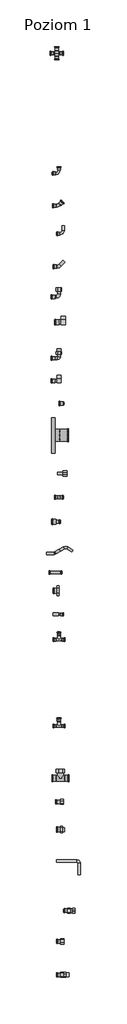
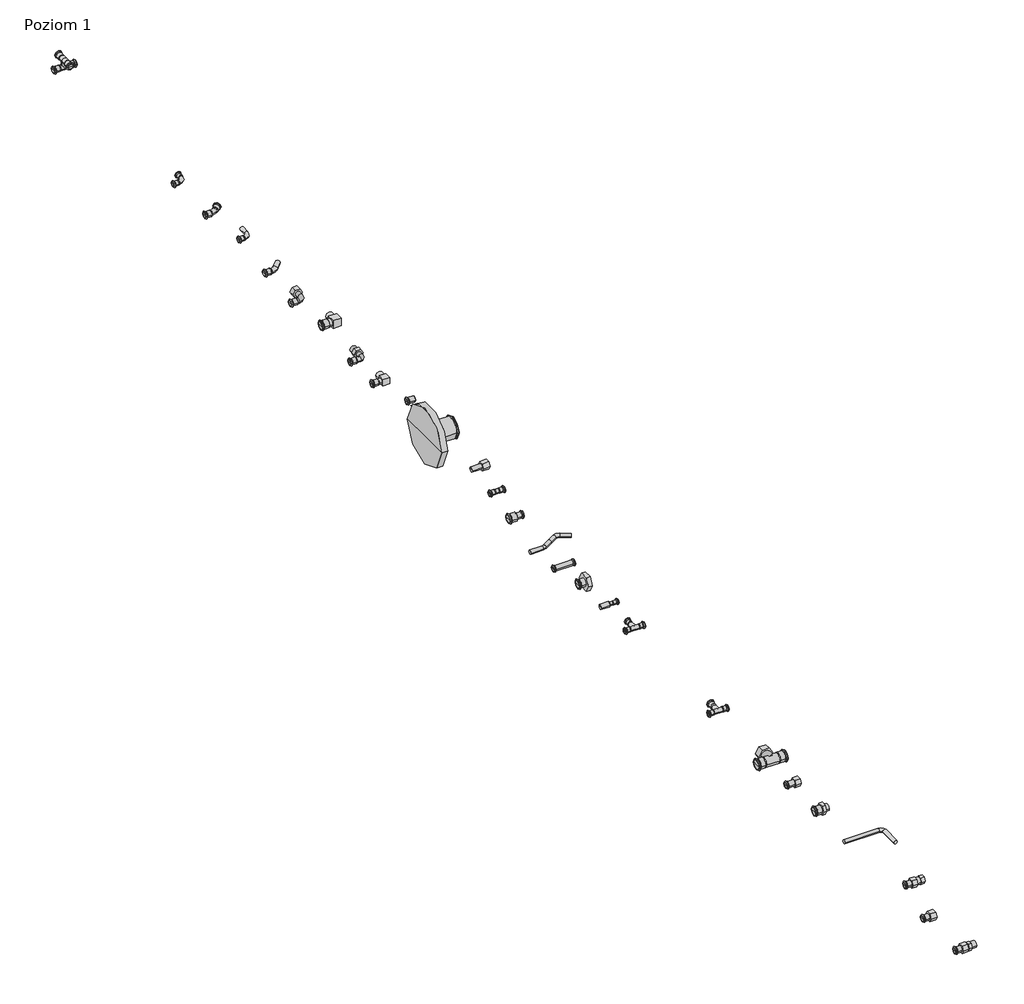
# One storey, incomplete: 27 pipe fittings.
"""IFC4 building model written with IfcOpenShell, lengths in millimetres."""

from ifc_helpers import new_model, si_unit, origin, place, context, project, spatial, transform, mapped, element, save
from components import pipe_fitting_8462d430, pipe_fitting_08f12846, pipe_fitting_08ccdee3, pipe_fitting_2555e7f1, pipe_fitting_e4f30973, pipe_fitting_8f5b5a92, pipe_fitting_eaec430f, pipe_fitting_f7e382dc, pipe_fitting_72cbb903, pipe_fitting_0f95d3b4, pipe_fitting_27f88213, pipe_fitting_b4462cad, pipe_fitting_2a5535a6, pipe_fitting_5a79280a, pipe_fitting_a91a79c0, pipe_fitting_d84e530c, pipe_fitting_259ccd33, pipe_fitting_d79643fc, pipe_fitting_2788c535, pipe_fitting_8b53cf8f, pipe_fitting_f1a50fe9, pipe_fitting_5368a910, pipe_fitting_0c1b11cb, pipe_fitting_7c4b0f0e, pipe_fitting_583e1adf, pipe_fitting_6daf88bd, pipe_fitting_339e2c9f

model = new_model("IFC4")

# Units and contexts
model_context = context("Model", 3, world=origin())
ifc_project = project(units=[si_unit("LENGTHUNIT", "METRE", prefix="MILLI")], contexts=[model_context])

# Site, building, storey
site = spatial("IfcSite", under=ifc_project)
building = spatial("IfcBuilding", under=site)
storey = spatial("IfcBuildingStorey", under=building, Name="Poziom 1", Elevation=0.0)

# Pipe fittings
placement = place(None, origin())
pipe_fitting_shape = pipe_fitting_8462d430(model_context)
element("IfcPipeFitting", 1, ObjectType="KAN-therm Steel złączka z GZ : KAN-therm Steel złączka z GZ", at=placement, inside=storey, context=model_context, shape_type="MappedRepresentation", body=[
    mapped(pipe_fitting_shape, transform((-12259.5036533, 14332.66029, 0.0), x_axis=(1.0, 0.0, 0.0), y_axis=(0.0, 1.0, 0.0), z_axis=(0.0, 0.0, 1.0))),
])
pipe_fitting_2_shape = pipe_fitting_08f12846(model_context)
element("IfcPipeFitting", 2, ObjectType="KAN-therm Steel czwórnik 90 przelotowy : KAN-therm Steel czwórnik 90 przelotowy", at=placement, inside=storey, context=model_context, shape_type="MappedRepresentation", body=[
    mapped(pipe_fitting_2_shape, transform((-12278.5373393, 18374.4410716, 0.0), x_axis=(1.0, 0.0, 0.0), y_axis=(0.0, 1.0, 0.0), z_axis=(0.0, 0.0, 1.0))),
])
pipe_fitting_3_shape = pipe_fitting_08ccdee3(model_context)
element("IfcPipeFitting", 3, ObjectType="KAN-therm Steel kolano 45 : KAN-therm Steel kolano 45", at=placement, inside=storey, context=model_context, shape_type="MappedRepresentation", body=[
    mapped(pipe_fitting_3_shape, transform((-12270.1211968, 17580.5182914, 0.0), x_axis=(1.0, 0.0, 0.0), y_axis=(0.0, 1.0, 0.0), z_axis=(0.0, 0.0, 1.0))),
])
pipe_fitting_4_shape = pipe_fitting_2555e7f1(model_context)
element("IfcPipeFitting", 4, ObjectType="KAN-therm Steel kolano nyplowe 45 : KAN-therm Steel kolano nyplowe 45", at=placement, inside=storey, context=model_context, shape_type="MappedRepresentation", body=[
    mapped(pipe_fitting_4_shape, transform((-12267.3158159, 17263.5102555, 0.0), x_axis=(1.0, 0.0, 0.0), y_axis=(0.0, 1.0, 0.0), z_axis=(0.0, 0.0, 1.0))),
])
pipe_fitting_5_shape = pipe_fitting_e4f30973(model_context)
element("IfcPipeFitting", 5, ObjectType="KAN-therm Steel kolano nyplowe : KAN-therm Steel kolano nyplowe", at=placement, inside=storey, context=model_context, shape_type="MappedRepresentation", body=[
    mapped(pipe_fitting_5_shape, transform((-12244.8727691, 17434.6384873, 0.0), x_axis=(1.0, 0.0, 0.0), y_axis=(0.0, 1.0, 0.0), z_axis=(0.0, 0.0, 1.0))),
])
pipe_fitting_6_shape = pipe_fitting_8f5b5a92(model_context)
element("IfcPipeFitting", 6, ObjectType="KAN-therm Steel kolano z GW krótkie : KAN-therm Steel kolano z GW krótkie", at=placement, inside=storey, context=model_context, shape_type="MappedRepresentation", body=[
    mapped(pipe_fitting_6_shape, transform((-12244.8727691, 16974.5560281, 0.0), x_axis=(1.0, 0.0, 0.0), y_axis=(0.0, 1.0, 0.0), z_axis=(0.0, 0.0, 1.0))),
])
pipe_fitting_7_shape = pipe_fitting_eaec430f(model_context)
element("IfcPipeFitting", 7, ObjectType="KAN-therm Steel kolano z GW : KAN-therm Steel kolano z GW", at=placement, inside=storey, context=model_context, shape_type="MappedRepresentation", body=[
    mapped(pipe_fitting_7_shape, transform((-12267.3158159, 17106.408928, 0.0), x_axis=(1.0, 0.0, 0.0), y_axis=(0.0, 1.0, 0.0), z_axis=(0.0, 0.0, 1.0))),
])
pipe_fitting_8_shape = pipe_fitting_f7e382dc(model_context)
element("IfcPipeFitting", 8, ObjectType="KAN-therm Steel kolano z GZ krótkie : KAN-therm Steel kolano z GZ krótkie", at=placement, inside=storey, context=model_context, shape_type="MappedRepresentation", body=[
    mapped(pipe_fitting_8_shape, transform((-12267.3158159, 16668.7695155, 0.0), x_axis=(1.0, 0.0, 0.0), y_axis=(0.0, 1.0, 0.0), z_axis=(0.0, 0.0, 1.0))),
])
pipe_fitting_9_shape = pipe_fitting_72cbb903(model_context)
element("IfcPipeFitting", 9, ObjectType="KAN-therm Steel kolano z GZ : KAN-therm Steel kolano z GZ", at=placement, inside=storey, context=model_context, shape_type="MappedRepresentation", body=[
    mapped(pipe_fitting_9_shape, transform((-12267.3158159, 16786.5955112, 0.0), x_axis=(1.0, 0.0, 0.0), y_axis=(0.0, 1.0, 0.0), z_axis=(0.0, 0.0, 1.0))),
])
pipe_fitting_10_shape = pipe_fitting_0f95d3b4(model_context)
element("IfcPipeFitting", 10, ObjectType="KAN-therm Steel kolano : KAN-therm Steel kolano", at=placement, inside=storey, context=model_context, shape_type="MappedRepresentation", body=[
    mapped(pipe_fitting_10_shape, transform((-12267.3158159, 17748.8411423, 0.0), x_axis=(1.0, 0.0, 0.0), y_axis=(0.0, 1.0, 0.0), z_axis=(0.0, 0.0, 1.0))),
])
pipe_fitting_11_shape = pipe_fitting_27f88213(model_context)
element("IfcPipeFitting", 11, ObjectType="KAN-therm Steel kołnierz PN16 : KAN-therm Steel kołnierz PN16", at=placement, inside=storey, context=model_context, shape_type="MappedRepresentation", body=[
    mapped(pipe_fitting_11_shape, transform((-12305.7050542, 16385.4260498, 0.0), x_axis=(1.0, 0.0, 0.0), y_axis=(0.0, 1.0, 0.0), z_axis=(0.0, 0.0, 1.0))),
])
pipe_fitting_12_shape = pipe_fitting_b4462cad(model_context)
element("IfcPipeFitting", 12, ObjectType="KAN-therm Steel końcówka z GW do zaprasowania : KAN-therm Steel końcówka z GW do zaprasowania", at=placement, inside=storey, context=model_context, shape_type="MappedRepresentation", body=[
    mapped(pipe_fitting_12_shape, transform((-12244.8727691, 16186.2440095, 0.0), x_axis=(1.0, 0.0, 0.0), y_axis=(0.0, 1.0, 0.0), z_axis=(0.0, 0.0, 1.0))),
])
pipe_fitting_13_shape = pipe_fitting_2a5535a6(model_context)
element("IfcPipeFitting", 13, ObjectType="KAN-therm Steel korek : KAN-therm Steel korek", at=placement, inside=storey, context=model_context, shape_type="MappedRepresentation", body=[
    mapped(pipe_fitting_13_shape, transform((-12267.3158159, 16550.9435199, 0.0), x_axis=(1.0, 0.0, 0.0), y_axis=(0.0, 1.0, 0.0), z_axis=(0.0, 0.0, 1.0))),
])
pipe_fitting_14_shape = pipe_fitting_5a79280a(model_context)
element("IfcPipeFitting", 14, ObjectType="KAN-therm Steel łuk 90 : KAN-therm Steel łuk 90", at=placement, inside=storey, context=model_context, shape_type="MappedRepresentation", body=[
    mapped(pipe_fitting_14_shape, transform((-12280.9653138, 14168.3042158, 0.0), x_axis=(1.0, 0.0, 0.0), y_axis=(0.0, 1.0, 0.0), z_axis=(0.0, 0.0, 1.0))),
])
pipe_fitting_15_shape = pipe_fitting_a91a79c0(model_context)
element("IfcPipeFitting", 15, ObjectType="KAN-therm Steel mufa redukcyjna : KAN-therm Steel mufa redukcyjna", at=placement, inside=storey, context=model_context, shape_type="MappedRepresentation", body=[
    mapped(pipe_fitting_15_shape, transform((-12283.2209215, 15935.1955104, 0.0), x_axis=(1.0, 0.0, 0.0), y_axis=(0.0, 1.0, 0.0), z_axis=(0.0, 0.0, 1.0))),
])
pipe_fitting_16_shape = pipe_fitting_d84e530c(model_context)
element("IfcPipeFitting", 16, ObjectType="KAN-therm Steel mufa : KAN-therm Steel mufa", at=placement, inside=storey, context=model_context, shape_type="MappedRepresentation", body=[
    mapped(pipe_fitting_16_shape, transform((-12267.3158159, 16062.8072522, 0.0), x_axis=(1.0, 0.0, 0.0), y_axis=(0.0, 1.0, 0.0), z_axis=(0.0, 0.0, 1.0))),
])
pipe_fitting_17_shape = pipe_fitting_259ccd33(model_context)
element("IfcPipeFitting", 17, ObjectType="KAN-therm Steel obejście : KAN-therm Steel obejście", at=placement, inside=storey, context=model_context, shape_type="MappedRepresentation", body=[
    mapped(pipe_fitting_17_shape, transform((-12333.0736064, 15770.663767, 0.0), x_axis=(1.0, 0.0, 0.0), y_axis=(0.0, 1.0, 0.0), z_axis=(0.0, 0.0, 1.0))),
])
pipe_fitting_18_shape = pipe_fitting_d79643fc(model_context)
element("IfcPipeFitting", 18, ObjectType="KAN-therm Steel półśrubunek GW : KAN-therm Steel półśrubunek GW", at=placement, inside=storey, context=model_context, shape_type="MappedRepresentation", body=[
    mapped(pipe_fitting_18_shape, transform((-12277.2828028, 15575.3959542, 0.0), x_axis=(1.0, 0.0, 0.0), y_axis=(0.0, 1.0, 0.0), z_axis=(0.0, 0.0, 1.0))),
])
pipe_fitting_19_shape = pipe_fitting_2788c535(model_context)
element("IfcPipeFitting", 19, ObjectType="KAN-therm Steel przedłużka : KAN-therm Steel przedłużka", at=placement, inside=storey, context=model_context, shape_type="MappedRepresentation", body=[
    mapped(pipe_fitting_19_shape, transform((-12285.7727077, 15671.2105953, 0.0), x_axis=(1.0, 0.0, 0.0), y_axis=(0.0, 1.0, 0.0), z_axis=(0.0, 0.0, 1.0))),
])
pipe_fitting_20_shape = pipe_fitting_8b53cf8f(model_context)
element("IfcPipeFitting", 20, ObjectType="KAN-therm Steel redukcja nyplowa : KAN-therm Steel redukcja nyplowa", at=placement, inside=storey, context=model_context, shape_type="MappedRepresentation", body=[
    mapped(pipe_fitting_20_shape, transform((-12297.3176139, 15452.6913586, 0.0), x_axis=(1.0, 0.0, 0.0), y_axis=(0.0, 1.0, 0.0), z_axis=(0.0, 0.0, 1.0))),
])
pipe_fitting_21_shape = pipe_fitting_f1a50fe9(model_context)
element("IfcPipeFitting", 21, ObjectType="KAN-therm Steel śrubunek GW (VK) : KAN-therm Steel śrubunek GW (VK)", at=placement, inside=storey, context=model_context, shape_type="MappedRepresentation", body=[
    mapped(pipe_fitting_21_shape, transform((-12259.5036533, 13750.3024693, 0.0), x_axis=(1.0, 0.0, 0.0), y_axis=(0.0, 1.0, 0.0), z_axis=(0.0, 0.0, 1.0))),
])
pipe_fitting_22_shape = pipe_fitting_5368a910(model_context)
element("IfcPipeFitting", 22, ObjectType="KAN-therm Steel śrubunek GW : KAN-therm Steel śrubunek GW", at=placement, inside=storey, context=model_context, shape_type="MappedRepresentation", body=[
    mapped(pipe_fitting_22_shape, transform((-12222.6836925, 13910.2091777, 0.0), x_axis=(1.0, 0.0, 0.0), y_axis=(0.0, 1.0, 0.0), z_axis=(0.0, 0.0, 1.0))),
])
pipe_fitting_23_shape = pipe_fitting_0c1b11cb(model_context)
element("IfcPipeFitting", 23, ObjectType="KAN-therm Steel śrubunek GZ : KAN-therm Steel śrubunek GZ", at=placement, inside=storey, context=model_context, shape_type="MappedRepresentation", body=[
    mapped(pipe_fitting_23_shape, transform((-12259.5036533, 13576.3688567, 0.0), x_axis=(1.0, 0.0, 0.0), y_axis=(0.0, 1.0, 0.0), z_axis=(0.0, 0.0, 1.0))),
])
pipe_fitting_24_shape = pipe_fitting_7c4b0f0e(model_context)
element("IfcPipeFitting", 24, ObjectType="KAN-therm Steel trójnik redukcyjny : KAN-therm Steel trójnik redukcyjny", at=placement, inside=storey, context=model_context, shape_type="MappedRepresentation", body=[
    mapped(pipe_fitting_24_shape, transform((-12267.3158159, 14871.647573, 0.0), x_axis=(1.0, 0.0, 0.0), y_axis=(0.0, 1.0, 0.0), z_axis=(0.0, 0.0, 1.0))),
])
pipe_fitting_25_shape = pipe_fitting_583e1adf(model_context)
element("IfcPipeFitting", 25, ObjectType="KAN-therm Steel trójnik z GW : KAN-therm Steel trójnik z GW", at=placement, inside=storey, context=model_context, shape_type="MappedRepresentation", body=[
    mapped(pipe_fitting_25_shape, transform((-12259.5036533, 14599.9404314, 0.0), x_axis=(1.0, 0.0, 0.0), y_axis=(0.0, 1.0, 0.0), z_axis=(0.0, 0.0, 1.0))),
])
pipe_fitting_26_shape = pipe_fitting_6daf88bd(model_context)
element("IfcPipeFitting", 26, ObjectType="KAN-therm Steel trójnik : KAN-therm Steel trójnik", at=placement, inside=storey, context=model_context, shape_type="MappedRepresentation", body=[
    mapped(pipe_fitting_26_shape, transform((-12267.3158159, 15321.7259339, 0.0), x_axis=(1.0, 0.0, 0.0), y_axis=(0.0, 1.0, 0.0), z_axis=(0.0, 0.0, 1.0))),
])
pipe_fitting_27_shape = pipe_fitting_339e2c9f(model_context)
element("IfcPipeFitting", 27, ObjectType="KAN-therm Steel złączka z GW : KAN-therm Steel złączka z GW", at=placement, inside=storey, context=model_context, shape_type="MappedRepresentation", body=[
    mapped(pipe_fitting_27_shape, transform((-12259.5036533, 14476.9067155, 0.0), x_axis=(1.0, 0.0, 0.0), y_axis=(0.0, 1.0, 0.0), z_axis=(0.0, 0.0, 1.0))),
])

save(model, "model.ifc")
